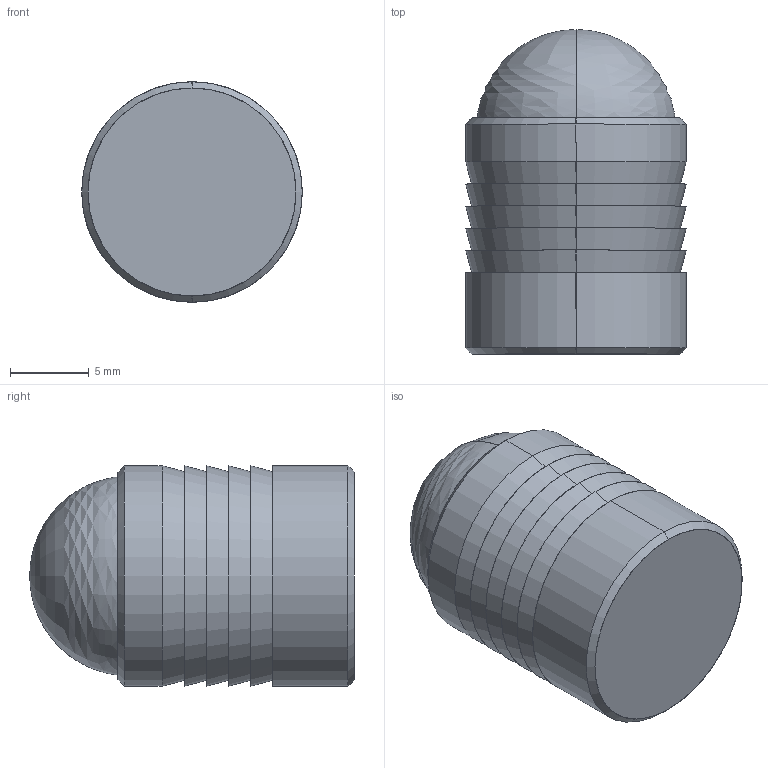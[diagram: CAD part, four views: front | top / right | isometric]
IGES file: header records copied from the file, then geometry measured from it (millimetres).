
Start section: SolidWorks IGES file using analytic representation for surfaces
Global section: file name: C:\Users\IanO\Desktop\P0190_v2\P0190_v2_20230321_IGES\P0190.140-A2-BS.igs; native system: SolidWorks 2019; preprocessor: SolidWorks 2019; author: IanO; date: 231219.161407; units: millimetre
Bounding box: 14 x 20.6 x 14 mm (x, y, z)
Surface area: 1662.6 mm2 (no closed solid volume)
Topology: 0 solids, 0 shells, 29 faces, 504 edges, 502 vertices
Faces by surface type: revolution 22, bspline 7
